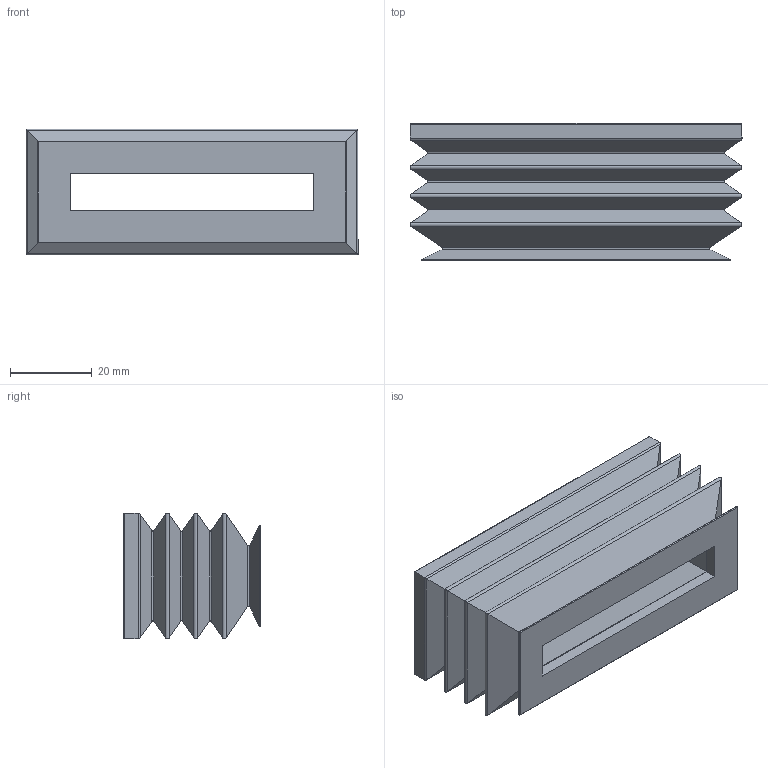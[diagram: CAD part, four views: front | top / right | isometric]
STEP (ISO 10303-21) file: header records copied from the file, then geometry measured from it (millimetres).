
FILE_DESCRIPTION((''),'2;1');
FILE_NAME('S:\Technik\Konstruktion\CAD-Daten\Kundenmodelle\209.80x30.003_Kd.stp','2010-10-13T16:14:33',('JGarcia-Martinez'),(''),'Autodesk Inventor 2009','Autodesk Inventor 2009','');
FILE_SCHEMA(('AUTOMOTIVE_DESIGN { 1 0 10303 214 1 1 1 1 }'));
Length unit declared in the file: millimetre
Products named in the file (1): 209.80x30
Bounding box: 81.2 x 33.5 x 30.7 mm (x, y, z)
Volume: 37499.4 mm3; surface area: 18715.8 mm2
Topology: 1 solids, 1 shells, 98 faces, 208 edges, 112 vertices
Faces by surface type: plane 50, cylinder 48
Entity records: 2558 total; most frequent: DIRECTION 462, CARTESIAN_POINT 419, ORIENTED_EDGE 416, EDGE_CURVE 208, AXIS2_PLACEMENT_3D 155, VECTOR 152, LINE 152, VERTEX_POINT 112
